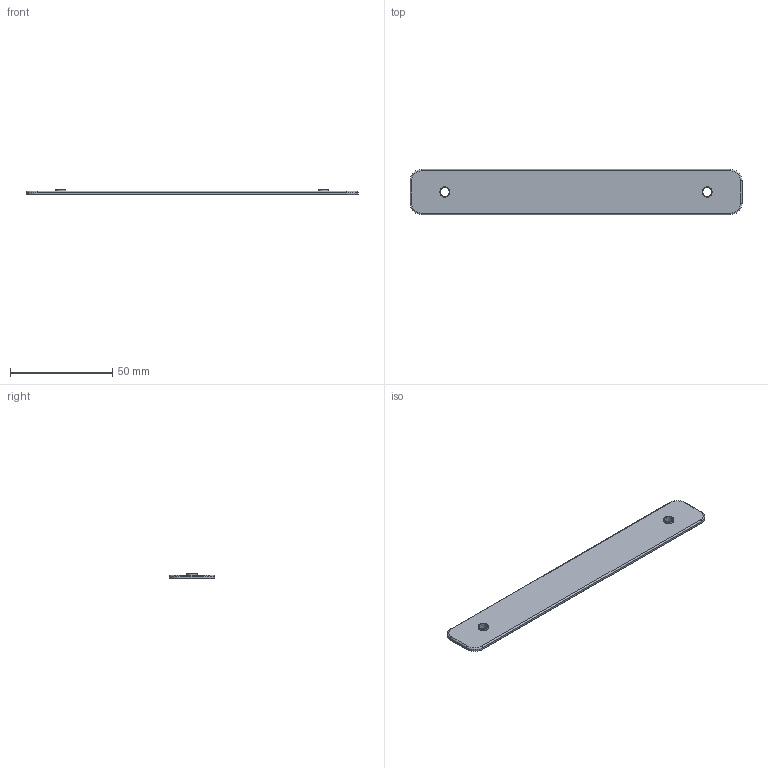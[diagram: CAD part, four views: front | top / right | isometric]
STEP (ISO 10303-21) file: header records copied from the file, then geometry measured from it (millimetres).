
FILE_DESCRIPTION(('Open CASCADE Model'),'2;1');
FILE_NAME('W-BAR-WL128-22','2026-10-19T21:23:52',('Author'),( 'Open CASCADE'),'Open CASCADE STEP processor 8.0','build123d', 'Unknown');
FILE_SCHEMA(('AUTOMOTIVE_DESIGN { 1 0 10303 214 1 1 1 1 }'));
Length unit declared in the file: millimetre
Products named in the file (2): W-BAR-WL128-22; brass_WL128-22__w
Assembly tree (1 placements, depth 2):
  W-BAR-WL128-22
    brass_WL128-22__w
Bounding box: 162 x 22 x 2.79 mm (x, y, z)
Volume: 6281.5 mm3; surface area: 7619.9 mm2
Topology: 1 solids, 1 shells, 32 faces, 68 edges, 40 vertices
Faces by surface type: plane 12, cylinder 12, cone 4, torus 4
Full cylindrical faces by diameter (mm): 4.3 x2, 5 x2
Entity records: 1768 total; most frequent: CARTESIAN_POINT 358, DIRECTION 264, ORIENTED_EDGE 136, PCURVE 136, DEFINITIONAL_REPRESENTATION 136, LINE 124, VECTOR 124, EDGE_CURVE 68
